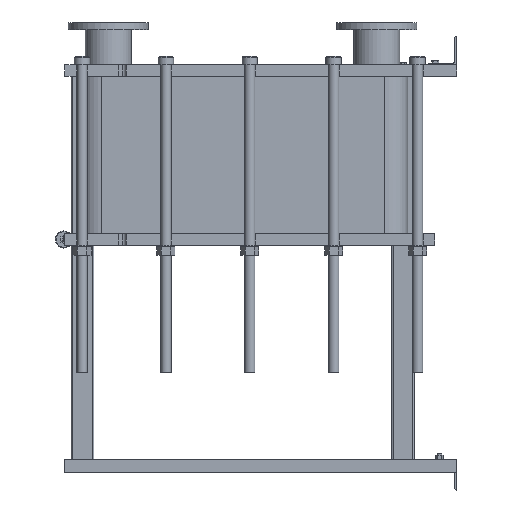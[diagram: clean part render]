
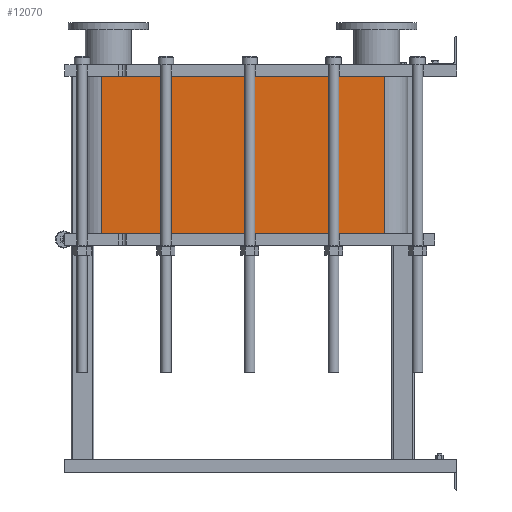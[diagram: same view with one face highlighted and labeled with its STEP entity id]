
A CAD part, left-side view. The second image highlights one B-rep face of the part: STEP entity #12070.
In plain terms, the highlighted planar face has unit normal (-1, 0, 0).
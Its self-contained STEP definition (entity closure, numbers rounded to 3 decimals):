
#1064=LINE('',#21140,#2164);
#1065=LINE('',#21144,#2165);
#1066=LINE('',#21146,#2166);
#1067=LINE('',#21147,#2167);
#2164=VECTOR('',#15790,10.);
#2165=VECTOR('',#15795,10.);
#2166=VECTOR('',#15796,10.);
#2167=VECTOR('',#15797,10.);
#3304=FACE_OUTER_BOUND('',#4091,.T.);
#4091=EDGE_LOOP('',(#9793,#9794,#9795,#9796));
#5677=VERTEX_POINT('',#21137);
#5678=VERTEX_POINT('',#21139);
#5679=VERTEX_POINT('',#21143);
#5680=VERTEX_POINT('',#21145);
#7118=EDGE_CURVE('',#5678,#5677,#1064,.T.);
#7120=EDGE_CURVE('',#5677,#5679,#1065,.T.);
#7121=EDGE_CURVE('',#5680,#5679,#1066,.T.);
#7122=EDGE_CURVE('',#5680,#5678,#1067,.T.);
#9793=ORIENTED_EDGE('',*,*,#7120,.T.);
#9794=ORIENTED_EDGE('',*,*,#7121,.F.);
#9795=ORIENTED_EDGE('',*,*,#7122,.T.);
#9796=ORIENTED_EDGE('',*,*,#7118,.T.);
#11441=PLANE('',#13191);
#12070=ADVANCED_FACE('',(#3304),#11441,.T.);
#13191=AXIS2_PLACEMENT_3D('',#21142,#15793,#15794);
#15790=DIRECTION('',(0.,0.,-1.));
#15793=DIRECTION('center_axis',(-1.,0.,0.));
#15794=DIRECTION('ref_axis',(0.,1.,0.));
#15795=DIRECTION('',(0.,-1.,0.));
#15796=DIRECTION('',(0.,0.,-1.));
#15797=DIRECTION('',(0.,1.,0.));
#21137=CARTESIAN_POINT('',(-248.152,1243.818,-552.));
#21139=CARTESIAN_POINT('',(-248.152,1243.818,0.));
#21140=CARTESIAN_POINT('',(-248.152,1243.818,0.));
#21142=CARTESIAN_POINT('Origin',(-248.152,251.818,0.));
#21143=CARTESIAN_POINT('',(-248.152,251.818,-552.));
#21144=CARTESIAN_POINT('',(-248.152,499.818,-552.));
#21145=CARTESIAN_POINT('',(-248.152,251.818,0.));
#21146=CARTESIAN_POINT('',(-248.152,251.818,0.));
#21147=CARTESIAN_POINT('',(-248.152,251.818,0.));
